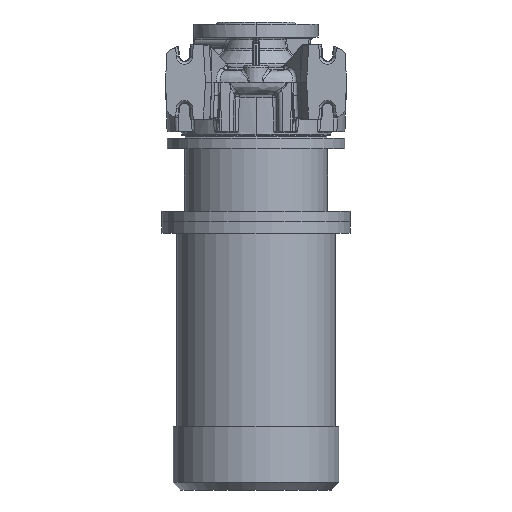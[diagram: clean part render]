
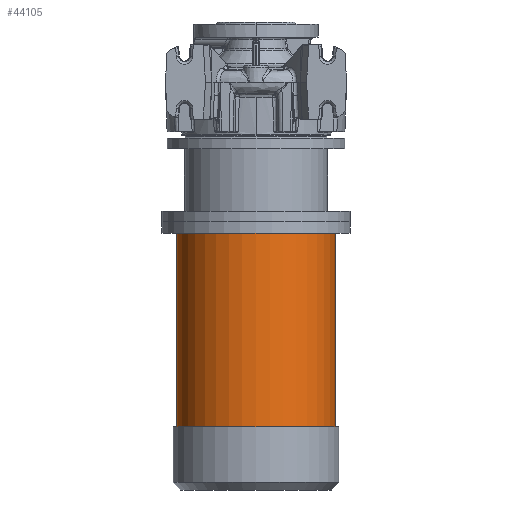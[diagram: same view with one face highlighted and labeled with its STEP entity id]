
A CAD part, front view. The second image highlights one B-rep face of the part: STEP entity #44105.
In plain terms, the highlighted cylindrical face has radius 105 mm (diameter 210 mm), a partial arc.
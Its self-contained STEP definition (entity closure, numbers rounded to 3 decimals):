
#3292 = AXIS2_PLACEMENT_3D ( 'NONE', #40610, #16048, #42409 ) ;
#6223 = LINE ( 'NONE', #80630, #82420 ) ;
#11238 = CIRCLE ( 'NONE', #79034, 105. ) ;
#16048 = DIRECTION ( 'NONE',  ( 0., 0., -1. ) ) ;
#17615 = DIRECTION ( 'NONE',  ( 0., 0., -1. ) ) ;
#22656 = EDGE_CURVE ( 'NONE', #25842, #74328, #6223, .T. ) ;
#23098 = CARTESIAN_POINT ( 'NONE',  ( -105., 0., -200.3 ) ) ;
#25294 = DIRECTION ( 'NONE',  ( 0., 0., -1. ) ) ;
#25661 = DIRECTION ( 'NONE',  ( -1., 0., 0. ) ) ;
#25768 = CARTESIAN_POINT ( 'NONE',  ( -105., 0., -457.3 ) ) ;
#25842 = VERTEX_POINT ( 'NONE', #41699 ) ;
#29839 = EDGE_LOOP ( 'NONE', ( #106852, #33658, #78423, #72661 ) ) ;
#33658 = ORIENTED_EDGE ( 'NONE', *, *, #39400, .T. ) ;
#36141 = LINE ( 'NONE', #77895, #62409 ) ;
#38715 = DIRECTION ( 'NONE',  ( 0., 0., -1. ) ) ;
#39400 = EDGE_CURVE ( 'NONE', #25842, #59990, #81707, .T. ) ;
#40610 = CARTESIAN_POINT ( 'NONE',  ( 0., 0., -541.3 ) ) ;
#41699 = CARTESIAN_POINT ( 'NONE',  ( 105., 0., -200.3 ) ) ;
#42409 = DIRECTION ( 'NONE',  ( -1., 0., 0. ) ) ;
#44105 = ADVANCED_FACE ( 'NONE', ( #81169 ), #65326, .T. ) ;
#47434 = CARTESIAN_POINT ( 'NONE',  ( 105., 0., -457.3 ) ) ;
#59990 = VERTEX_POINT ( 'NONE', #23098 ) ;
#60581 = DIRECTION ( 'NONE',  ( -1., 0., 0. ) ) ;
#62409 = VECTOR ( 'NONE', #77542, 1000. ) ;
#65326 = CYLINDRICAL_SURFACE ( 'NONE', #3292, 105. ) ;
#72661 = ORIENTED_EDGE ( 'NONE', *, *, #90759, .F. ) ;
#74328 = VERTEX_POINT ( 'NONE', #47434 ) ;
#74636 = EDGE_CURVE ( 'NONE', #59990, #79242, #36141, .T. ) ;
#77542 = DIRECTION ( 'NONE',  ( 0., 0., -1. ) ) ;
#77895 = CARTESIAN_POINT ( 'NONE',  ( -105., 0., -541.3 ) ) ;
#78423 = ORIENTED_EDGE ( 'NONE', *, *, #74636, .T. ) ;
#79034 = AXIS2_PLACEMENT_3D ( 'NONE', #101652, #17615, #60581 ) ;
#79242 = VERTEX_POINT ( 'NONE', #25768 ) ;
#80630 = CARTESIAN_POINT ( 'NONE',  ( 105., 0., -541.3 ) ) ;
#81169 = FACE_OUTER_BOUND ( 'NONE', #29839, .T. ) ;
#81707 = CIRCLE ( 'NONE', #93064, 105. ) ;
#82420 = VECTOR ( 'NONE', #38715, 1000. ) ;
#90759 = EDGE_CURVE ( 'NONE', #74328, #79242, #11238, .T. ) ;
#93064 = AXIS2_PLACEMENT_3D ( 'NONE', #108281, #25294, #25661 ) ;
#101652 = CARTESIAN_POINT ( 'NONE',  ( 0., 0., -457.3 ) ) ;
#106852 = ORIENTED_EDGE ( 'NONE', *, *, #22656, .F. ) ;
#108281 = CARTESIAN_POINT ( 'NONE',  ( 0., 0., -200.3 ) ) ;
